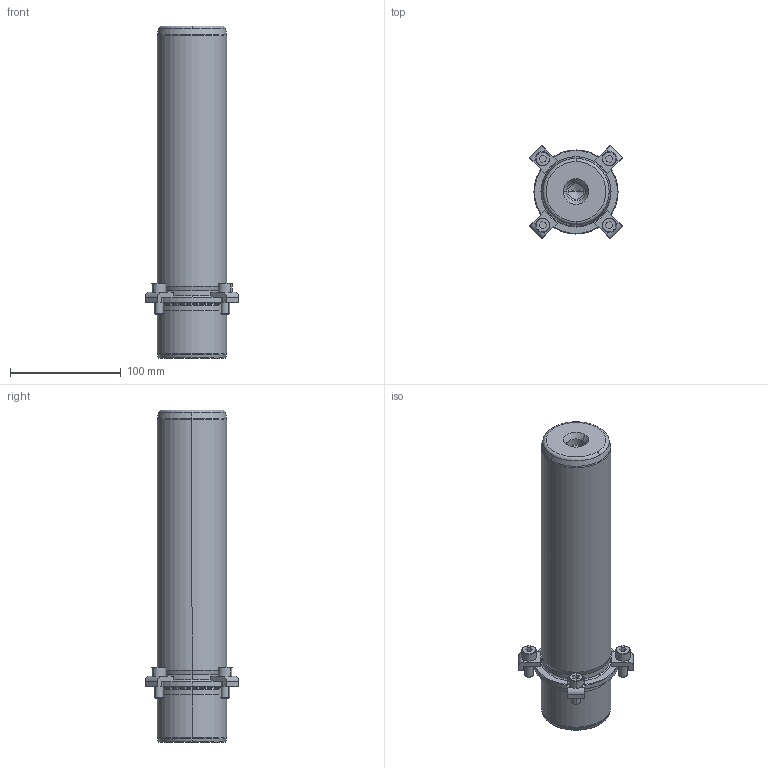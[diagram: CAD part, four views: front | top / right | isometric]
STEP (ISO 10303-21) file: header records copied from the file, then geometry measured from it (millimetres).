
FILE_DESCRIPTION((''),'2;1');
FILE_NAME('P21_063_250.stp','2008-12-23T09:22:29',(''),(''),'Mechanical Desktop 2009','Mechanical Desktop 2009',', , ');
FILE_SCHEMA(('CONFIG_CONTROL_DESIGN'));
Length unit declared in the file: millimetre
Products named in the file (2): Product; blmdl1
Assembly tree (1 placements, depth 2):
  Product
    blmdl1
Bounding box: 84.5 x 84.5 x 300 mm (x, y, z)
Volume: 934555.2 mm3; surface area: 81003.5 mm2
Topology: 9 solids, 9 shells, 195 faces, 477 edges, 309 vertices
Faces by surface type: plane 77, cylinder 52, cone 34, torus 16, bspline 16
Entity records: 6547 total; most frequent: CARTESIAN_POINT 1683, DIRECTION 1078, ORIENTED_EDGE 946, EDGE_CURVE 473, AXIS2_PLACEMENT_3D 424, VERTEX_POINT 309, CIRCLE 243, VECTOR 230
